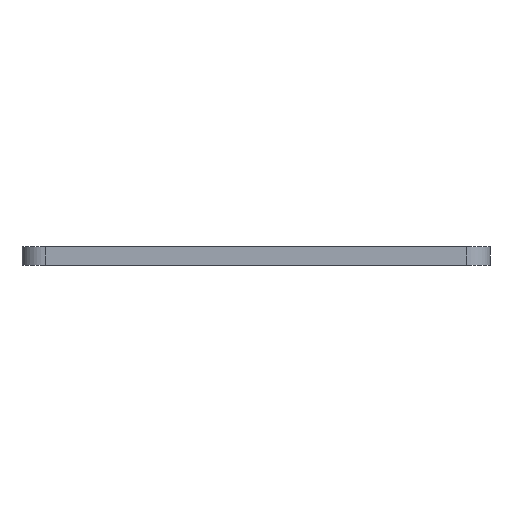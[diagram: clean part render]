
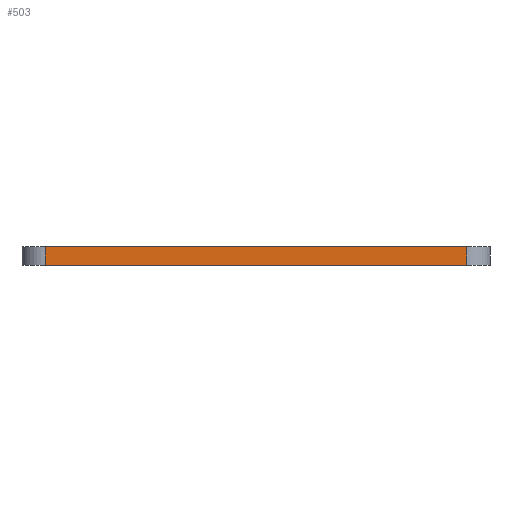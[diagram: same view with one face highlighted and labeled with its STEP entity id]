
A CAD part, front view. The second image highlights one B-rep face of the part: STEP entity #503.
In plain terms, the highlighted planar face has unit normal (0, -1, 0).
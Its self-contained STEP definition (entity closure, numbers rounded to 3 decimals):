
#24 = VERTEX_POINT('',#25);
#25 = CARTESIAN_POINT('',(-18.,-47.,7.3));
#33 = PLANE('',#34);
#34 = AXIS2_PLACEMENT_3D('',#35,#36,#37);
#35 = CARTESIAN_POINT('',(-18.,-47.,7.3));
#36 = DIRECTION('',(0.,0.,1.));
#37 = DIRECTION('',(1.,0.,-0.));
#45 = CYLINDRICAL_SURFACE('',#46,2.);
#46 = AXIS2_PLACEMENT_3D('',#47,#48,#49);
#47 = CARTESIAN_POINT('',(-18.,-45.,5.7));
#48 = DIRECTION('',(0.,0.,1.));
#49 = DIRECTION('',(1.,0.,-0.));
#57 = EDGE_CURVE('',#24,#58,#60,.T.);
#58 = VERTEX_POINT('',#59);
#59 = CARTESIAN_POINT('',(18.,-47.,7.3));
#60 = SURFACE_CURVE('',#61,(#65,#72),.PCURVE_S1.);
#61 = LINE('',#62,#63);
#62 = CARTESIAN_POINT('',(-18.,-47.,7.3));
#63 = VECTOR('',#64,1.);
#64 = DIRECTION('',(1.,0.,-0.));
#65 = PCURVE('',#33,#66);
#66 = DEFINITIONAL_REPRESENTATION('',(#67),#71);
#67 = LINE('',#68,#69);
#68 = CARTESIAN_POINT('',(0.,0.));
#69 = VECTOR('',#70,1.);
#70 = DIRECTION('',(1.,0.));
#71 = ( GEOMETRIC_REPRESENTATION_CONTEXT(2) 
PARAMETRIC_REPRESENTATION_CONTEXT() REPRESENTATION_CONTEXT('2D SPACE',''
  ) );
#72 = PCURVE('',#73,#78);
#73 = PLANE('',#74);
#74 = AXIS2_PLACEMENT_3D('',#75,#76,#77);
#75 = CARTESIAN_POINT('',(-18.,-47.,5.7));
#76 = DIRECTION('',(-0.,1.,0.));
#77 = DIRECTION('',(0.,0.,1.));
#78 = DEFINITIONAL_REPRESENTATION('',(#79),#83);
#79 = LINE('',#80,#81);
#80 = CARTESIAN_POINT('',(1.6,0.));
#81 = VECTOR('',#82,1.);
#82 = DIRECTION('',(0.,1.));
#83 = ( GEOMETRIC_REPRESENTATION_CONTEXT(2) 
PARAMETRIC_REPRESENTATION_CONTEXT() REPRESENTATION_CONTEXT('2D SPACE',''
  ) );
#102 = CYLINDRICAL_SURFACE('',#103,2.);
#103 = AXIS2_PLACEMENT_3D('',#104,#105,#106);
#104 = CARTESIAN_POINT('',(18.,-45.,5.7));
#105 = DIRECTION('',(0.,0.,1.));
#106 = DIRECTION('',(1.,0.,-0.));
#406 = VERTEX_POINT('',#407);
#407 = CARTESIAN_POINT('',(-18.,-47.,5.7));
#422 = PLANE('',#423);
#423 = AXIS2_PLACEMENT_3D('',#424,#425,#426);
#424 = CARTESIAN_POINT('',(-18.,-45.,5.7));
#425 = DIRECTION('',(0.,0.,1.));
#426 = DIRECTION('',(1.,0.,-0.));
#434 = EDGE_CURVE('',#406,#24,#435,.T.);
#435 = SURFACE_CURVE('',#436,(#440,#447),.PCURVE_S1.);
#436 = LINE('',#437,#438);
#437 = CARTESIAN_POINT('',(-18.,-47.,5.7));
#438 = VECTOR('',#439,1.);
#439 = DIRECTION('',(0.,0.,1.));
#440 = PCURVE('',#45,#441);
#441 = DEFINITIONAL_REPRESENTATION('',(#442),#446);
#442 = LINE('',#443,#444);
#443 = CARTESIAN_POINT('',(4.712,0.));
#444 = VECTOR('',#445,1.);
#445 = DIRECTION('',(0.,1.));
#446 = ( GEOMETRIC_REPRESENTATION_CONTEXT(2) 
PARAMETRIC_REPRESENTATION_CONTEXT() REPRESENTATION_CONTEXT('2D SPACE',''
  ) );
#447 = PCURVE('',#73,#448);
#448 = DEFINITIONAL_REPRESENTATION('',(#449),#453);
#449 = LINE('',#450,#451);
#450 = CARTESIAN_POINT('',(0.,0.));
#451 = VECTOR('',#452,1.);
#452 = DIRECTION('',(1.,0.));
#453 = ( GEOMETRIC_REPRESENTATION_CONTEXT(2) 
PARAMETRIC_REPRESENTATION_CONTEXT() REPRESENTATION_CONTEXT('2D SPACE',''
  ) );
#503 = ADVANCED_FACE('',(#504),#73,.F.);
#504 = FACE_BOUND('',#505,.F.);
#505 = EDGE_LOOP('',(#506,#529,#530,#531));
#506 = ORIENTED_EDGE('',*,*,#507,.F.);
#507 = EDGE_CURVE('',#406,#508,#510,.T.);
#508 = VERTEX_POINT('',#509);
#509 = CARTESIAN_POINT('',(18.,-47.,5.7));
#510 = SURFACE_CURVE('',#511,(#515,#522),.PCURVE_S1.);
#511 = LINE('',#512,#513);
#512 = CARTESIAN_POINT('',(-18.,-47.,5.7));
#513 = VECTOR('',#514,1.);
#514 = DIRECTION('',(1.,0.,-0.));
#515 = PCURVE('',#73,#516);
#516 = DEFINITIONAL_REPRESENTATION('',(#517),#521);
#517 = LINE('',#518,#519);
#518 = CARTESIAN_POINT('',(0.,0.));
#519 = VECTOR('',#520,1.);
#520 = DIRECTION('',(0.,1.));
#521 = ( GEOMETRIC_REPRESENTATION_CONTEXT(2) 
PARAMETRIC_REPRESENTATION_CONTEXT() REPRESENTATION_CONTEXT('2D SPACE',''
  ) );
#522 = PCURVE('',#422,#523);
#523 = DEFINITIONAL_REPRESENTATION('',(#524),#528);
#524 = LINE('',#525,#526);
#525 = CARTESIAN_POINT('',(0.,-2.));
#526 = VECTOR('',#527,1.);
#527 = DIRECTION('',(1.,0.));
#528 = ( GEOMETRIC_REPRESENTATION_CONTEXT(2) 
PARAMETRIC_REPRESENTATION_CONTEXT() REPRESENTATION_CONTEXT('2D SPACE',''
  ) );
#529 = ORIENTED_EDGE('',*,*,#434,.T.);
#530 = ORIENTED_EDGE('',*,*,#57,.T.);
#531 = ORIENTED_EDGE('',*,*,#532,.F.);
#532 = EDGE_CURVE('',#508,#58,#533,.T.);
#533 = SURFACE_CURVE('',#534,(#538,#545),.PCURVE_S1.);
#534 = LINE('',#535,#536);
#535 = CARTESIAN_POINT('',(18.,-47.,5.7));
#536 = VECTOR('',#537,1.);
#537 = DIRECTION('',(0.,0.,1.));
#538 = PCURVE('',#73,#539);
#539 = DEFINITIONAL_REPRESENTATION('',(#540),#544);
#540 = LINE('',#541,#542);
#541 = CARTESIAN_POINT('',(0.,36.));
#542 = VECTOR('',#543,1.);
#543 = DIRECTION('',(1.,0.));
#544 = ( GEOMETRIC_REPRESENTATION_CONTEXT(2) 
PARAMETRIC_REPRESENTATION_CONTEXT() REPRESENTATION_CONTEXT('2D SPACE',''
  ) );
#545 = PCURVE('',#102,#546);
#546 = DEFINITIONAL_REPRESENTATION('',(#547),#551);
#547 = LINE('',#548,#549);
#548 = CARTESIAN_POINT('',(4.712,0.));
#549 = VECTOR('',#550,1.);
#550 = DIRECTION('',(0.,1.));
#551 = ( GEOMETRIC_REPRESENTATION_CONTEXT(2) 
PARAMETRIC_REPRESENTATION_CONTEXT() REPRESENTATION_CONTEXT('2D SPACE',''
  ) );
